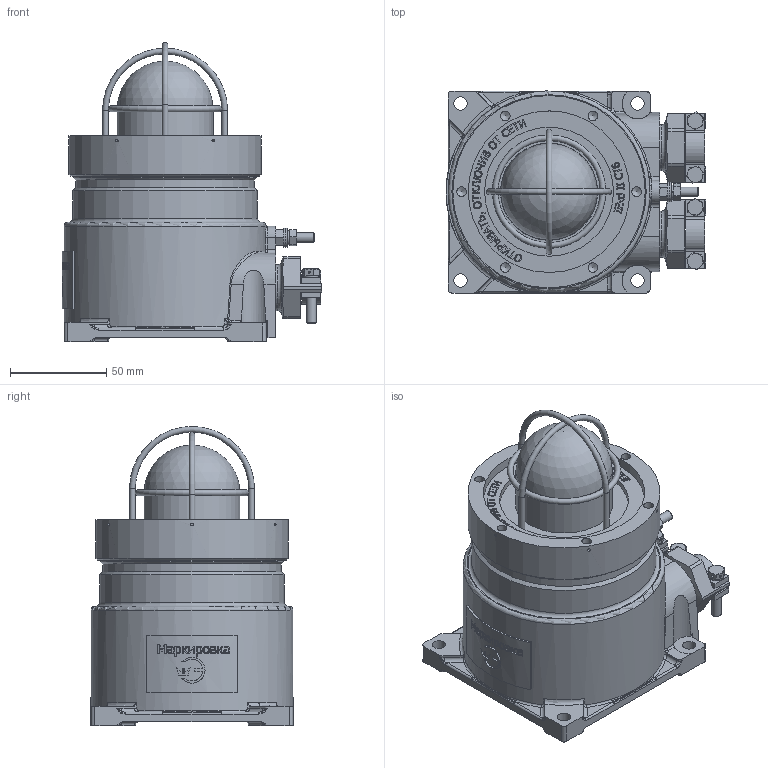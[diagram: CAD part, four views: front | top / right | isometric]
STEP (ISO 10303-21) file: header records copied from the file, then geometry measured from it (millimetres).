
FILE_DESCRIPTION(/* description */ ('','CAx-IF Rec.Pracs.---Representation and Presentation of Product Manufacturing Information (PMI)---3.8---2014-02-18'),/* implementation_level */ '2;1');
FILE_NAME(/* name */ 'C:\Users\suhorukovav\Desktop\ПОЖАРКА ДЛЯ САЙТА\НОВОЕ\ЕхОППС-1В-СМ-А-Б ЗАО НПК ЭТАЛОН.stp',/* time_stamp */ '2016-12-25T11:34:44+03:00',/* author */ ('suhorukovav'),/* organization */ (''),/* preprocessor_version */ 'ST-DEVELOPER v16.1',/* originating_system */ 'Autodesk Inventor 2016',/* authorisation */ '');
FILE_SCHEMA (('AP242_MANAGED_MODEL_BASED_3D_ENGINEERING_MIM_LF { 1 0 10303 442 1 1 4 }'));
Products named in the file (2): Сборка8_Substitute_1; Сборка8
Assembly tree (1 placements, depth 2):
  Сборка8
    Сборка8_Substitute_1
Bounding box: 135 x 105 x 155.5 mm (x, y, z)
Surface area: 156273.4 mm2 (no closed solid volume)
Topology: 0 solids, 40 shells, 1375 faces, 3516 edges, 2271 vertices
Faces by surface type: plane 644, bspline 324, cylinder 261, cone 89, torus 54, sphere 3
Full cylindrical faces by diameter (mm): 1 x1, 1.2 x16, 1.5 x6, 3 x8, 3.242 x3, 4.134 x7, 5 x11, 5.3 x2, 5.5 x8, 7 x4, 10 x2, 14 x2, 15 x2, 20 x2, 20.5 x2, 24 x4, 24.835 x2, 27 x2, 30 x2, 42 x1, 50 x1, 50.5 x1, 57 x1, 66 x2, 67 x1, 80.2 x1, 84 x2, 85 x1, 92.8 x1, 93.5 x1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
Entity records: 49233 total; most frequent: CARTESIAN_POINT 17149, ORIENTED_EDGE 6626, DIRECTION 5398, EDGE_CURVE 3313, VERTEX_POINT 2239, AXIS2_PLACEMENT_3D 1831, LINE 1736, VECTOR 1736
